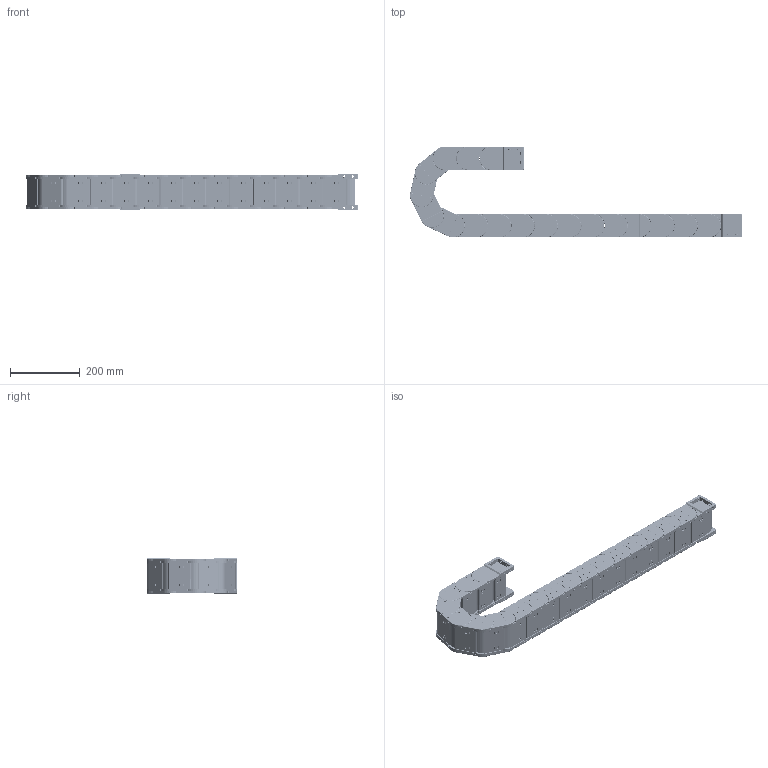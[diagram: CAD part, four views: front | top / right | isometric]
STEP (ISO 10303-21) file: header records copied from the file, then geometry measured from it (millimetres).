
FILE_DESCRIPTION (( 'STEP AP214' ), '1' );
FILE_NAME ('J45F.1.75S-3D賦凳芞.STEP', '2019-01-09T08:31:12', ( 'Sky123.Org' ), ( 'Sky123.Org' ), 'SwSTEP 2.0', 'SolidWorks 2017', '' );
FILE_SCHEMA (( 'AUTOMOTIVE_DESIGN' ));
Length unit declared in the file: millimetre
Products named in the file (11): 5-N45X100-源諉俋 - 萵掛; 45-N源諉芛俋; 5-N45X100-源諉囀 - 萵掛; 45-臏簽1; 45-N源諉芛囀; N45FX75-等誹1 - 萵掛; H35X75-FBP-W猾敕え; H35-J45-FBP-N猾敕え; 45-崝Ч翋极2; 45-崝Ч翋极1; J45F.1.75S-3D賦凳芞
Assembly tree (55 placements, depth 3):
  J45F.1.75S-3D賦凳芞
    N45FX75-等誹1 - 萵掛  x17
      45-崝Ч翋极1
      45-崝Ч翋极2
      H35-J45-FBP-N猾敕え
      H35X75-FBP-W猾敕え
    5-N45X100-源諉囀 - 萵掛
      45-N源諉芛囀  x2
      45-臏簽1  x12
      H35-J45-FBP-N猾敕え
      H35X75-FBP-W猾敕え
    5-N45X100-源諉俋 - 萵掛
      45-N源諉芛俋  x2
      45-臏簽1  x12
      H35-J45-FBP-N猾敕え
      H35X75-FBP-W猾敕え
Bounding box: 954.91 x 261 x 104 mm (x, y, z)
Volume: 2700702.5 mm3; surface area: 1433435 mm2
Topology: 100 solids, 100 shells, 23329 faces, 63191 edges, 39614 vertices
Faces by surface type: plane 12592, bspline 5004, cylinder 4977, torus 748, sphere 8
Entity records: 55392 total; most frequent: CARTESIAN_POINT 19957, ORIENTED_EDGE 7662, DIRECTION 6605, EDGE_CURVE 3831, LINE 2491, VECTOR 2491, VERTEX_POINT 2452, AXIS2_PLACEMENT_3D 2057
